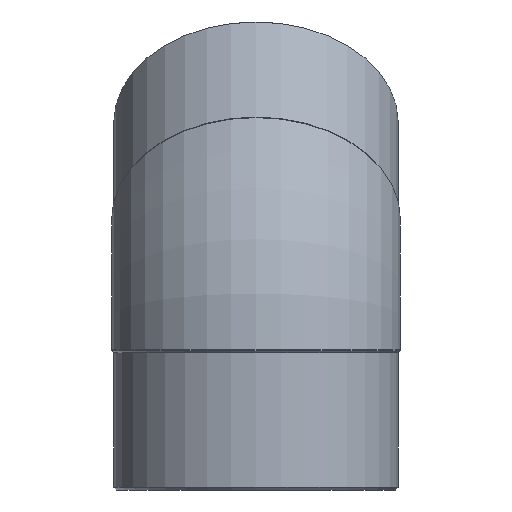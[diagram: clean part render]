
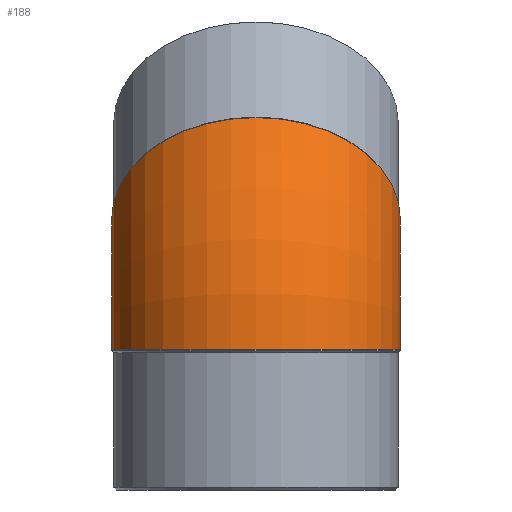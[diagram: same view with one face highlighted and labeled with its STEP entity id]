
A CAD part, left-side view. The second image highlights one B-rep face of the part: STEP entity #188.
In plain terms, the highlighted toroidal (fillet/blend) face has major radius 258.321 mm and minor radius 203 mm.
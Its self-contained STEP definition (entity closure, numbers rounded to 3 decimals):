
#20=TOROIDAL_SURFACE('',#225,258.321,203.);
#53=ORIENTED_EDGE('',*,*,#86,.F.);
#54=ORIENTED_EDGE('',*,*,#87,.T.);
#86=EDGE_CURVE('',#104,#104,#118,.F.);
#87=EDGE_CURVE('',#105,#105,#119,.F.);
#104=VERTEX_POINT('',#349);
#105=VERTEX_POINT('',#352);
#118=CIRCLE('',#224,203.);
#119=CIRCLE('',#226,203.);
#136=EDGE_LOOP('',(#53));
#137=EDGE_LOOP('',(#54));
#163=FACE_BOUND('',#136,.T.);
#164=FACE_BOUND('',#137,.T.);
#188=ADVANCED_FACE('',(#163,#164),#20,.T.);
#224=AXIS2_PLACEMENT_3D('',#348,#270,#271);
#225=AXIS2_PLACEMENT_3D('',#350,#272,#273);
#226=AXIS2_PLACEMENT_3D('',#351,#274,#275);
#270=DIRECTION('',(-0.707,0.,-0.707));
#271=DIRECTION('',(0.707,0.,-0.707));
#272=DIRECTION('',(0.,1.,0.));
#273=DIRECTION('',(0.,0.,1.));
#274=DIRECTION('',(0.,0.,-1.));
#275=DIRECTION('',(1.,0.,0.));
#348=CARTESIAN_POINT('',(75.66,0.,75.66));
#349=CARTESIAN_POINT('',(219.203,0.,-67.882));
#350=CARTESIAN_POINT('',(258.321,0.,-107.));
#351=CARTESIAN_POINT('',(0.,0.,-107.));
#352=CARTESIAN_POINT('',(203.,0.,-107.));
